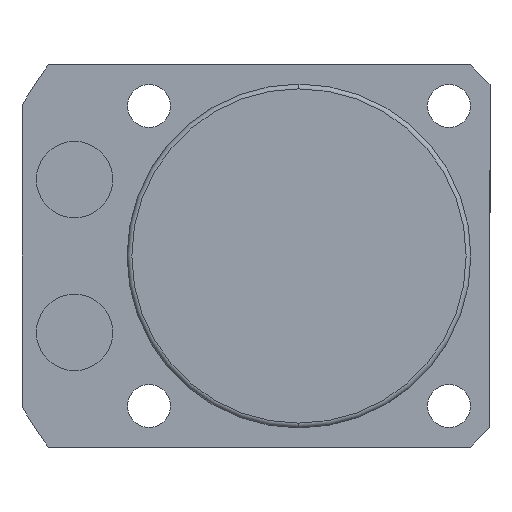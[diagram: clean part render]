
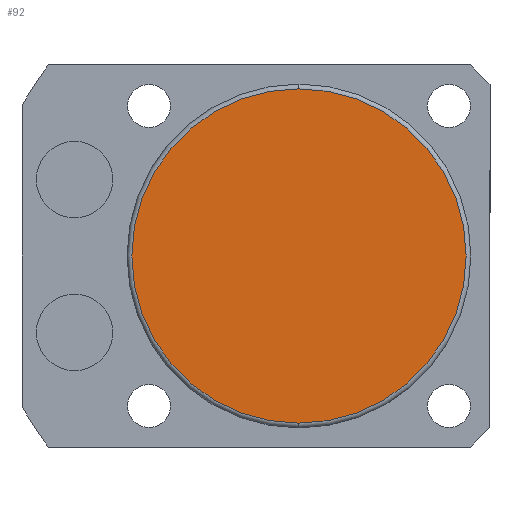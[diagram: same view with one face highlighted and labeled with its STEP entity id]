
A CAD part, front view. The second image highlights one B-rep face of the part: STEP entity #92.
In plain terms, the highlighted planar face has unit normal (0, -1, 0).
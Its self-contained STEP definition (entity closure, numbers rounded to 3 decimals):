
#3 = ORIENTED_EDGE ( 'NONE', *, *, #2522, .T. ) ;
#15 = AXIS2_PLACEMENT_3D ( 'NONE', #1845, #380, #2635 ) ;
#92 = ADVANCED_FACE ( 'NONE', ( #2479 ), #946, .T. ) ;
#112 = AXIS2_PLACEMENT_3D ( 'NONE', #322, #2412, #2204 ) ;
#322 = CARTESIAN_POINT ( 'NONE',  ( 0., -100.5, 0. ) ) ;
#336 = CARTESIAN_POINT ( 'NONE',  ( 0., -100.5, -17.5 ) ) ;
#380 = DIRECTION ( 'NONE',  ( 0., -1., 0. ) ) ;
#383 = CARTESIAN_POINT ( 'NONE',  ( 0., -100.5, 0. ) ) ;
#519 = CIRCLE ( 'NONE', #112, 17.5 ) ;
#675 = EDGE_CURVE ( 'NONE', #1298, #1218, #2628, .T. ) ;
#718 = ORIENTED_EDGE ( 'NONE', *, *, #675, .T. ) ;
#771 = EDGE_LOOP ( 'NONE', ( #718, #3 ) ) ;
#946 = PLANE ( 'NONE',  #1177 ) ;
#1177 = AXIS2_PLACEMENT_3D ( 'NONE', #383, #2041, #1434 ) ;
#1218 = VERTEX_POINT ( 'NONE', #1795 ) ;
#1298 = VERTEX_POINT ( 'NONE', #336 ) ;
#1434 = DIRECTION ( 'NONE',  ( 0., 0., -1. ) ) ;
#1795 = CARTESIAN_POINT ( 'NONE',  ( 0., -100.5, 17.5 ) ) ;
#1845 = CARTESIAN_POINT ( 'NONE',  ( 0., -100.5, 0. ) ) ;
#2041 = DIRECTION ( 'NONE',  ( 0., -1., 0. ) ) ;
#2204 = DIRECTION ( 'NONE',  ( 0., 0., -1. ) ) ;
#2412 = DIRECTION ( 'NONE',  ( 0., -1., 0. ) ) ;
#2479 = FACE_OUTER_BOUND ( 'NONE', #771, .T. ) ;
#2522 = EDGE_CURVE ( 'NONE', #1218, #1298, #519, .T. ) ;
#2628 = CIRCLE ( 'NONE', #15, 17.5 ) ;
#2635 = DIRECTION ( 'NONE',  ( 0., 0., -1. ) ) ;
